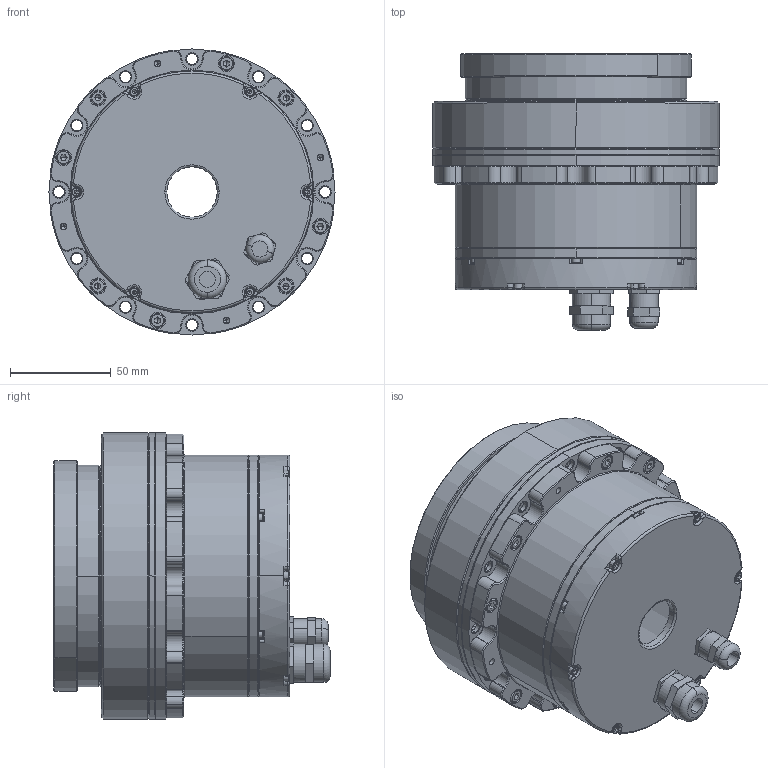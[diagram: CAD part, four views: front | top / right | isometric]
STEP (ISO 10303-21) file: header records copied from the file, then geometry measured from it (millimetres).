
FILE_DESCRIPTION (( 'STEP AP214' ), '1' );
FILE_NAME ('CMH-32-080-NB-BA-01-S2壽誹耀郪.STEP', '2023-05-11T01:37:51', ( '' ), ( '' ), 'SwSTEP 2.0', 'SolidWorks 2020', '' );
FILE_SCHEMA (( 'AUTOMOTIVE_DESIGN' ));
Length unit declared in the file: millimetre
Products named in the file (53): M16萇擢滅阨諉芛-hjs; M2.5X10-C_GB_FASTENER_SCREWS_HSHCS M2.5X10-C; CMH32-93-04-S1雄攫盓殤; 61808 GB 276-94_Rolling bearings 61808 GB 276-94; M4X25-鬥芛_GB_FASTENER_SCREWS_HSHCS M4X25-C; M4X25-C_GB_FASTENER_SCREWS_HSHCS M4X25-C; STWN50(縐銅); CMH32-11-04-S1奻褲极; M2.5X25-C_GB_FASTENER_SCREWS_HSHCS M2.5X10-C; M2X12-C_GB_FASTENER_SCREWS_HSHCS M2X12-C; CMH32-91-04-S1萇儂褲极; CMH32-13-04-S1狟褲极; CAPRO-S076034-噤砃; CMH32-22-03（定子骨架）; M12萇擢滅阨諉芛; CMH32-12-04熬厒儂圉傖こ; CMH32-31-03(蛌赽沺郋); 6810 VVCM_Rolling bearings 16010 GB 276-94; CMH32-32-03 CMH32-33-03(棠詩); DM110-10B30-QBX; CMH32-21-03(隅赽沺郋); MU35S 56-64N; CMH32-14-04-S1楷汜ん粣; CMH32-10-04-S1熬厒儂郪璃; DM110-10B30-PCB; CMH-32-080-NB-BA-01-S2壽誹耀郪; CMH32-96-04-S1萇儂綴傷裔; CMH32-92-04-S2晤鎢ん裔
Assembly tree (40 placements, depth 3):
  CMH32-93-04-S1雄攫盓殤
  61808 GB 276-94_Rolling bearings 61808 GB 276-94
  STWN50(縐銅)
  M2X12-C_GB_FASTENER_SCREWS_HSHCS M2X12-C
  CMH32-22-03（定子骨架）
Bounding box: 142 x 137 x 142 mm (x, y, z)
Volume: 315106.9 mm3; surface area: 210641.5 mm2
Topology: 44 solids, 53 shells, 3086 faces, 8057 edges, 5021 vertices
Faces by surface type: plane 1046, cylinder 1006, cone 574, bspline 289, torus 159, sphere 12
Entity records: 105990 total; most frequent: CARTESIAN_POINT 26635, ORIENTED_EDGE 15858, DIRECTION 14974, EDGE_CURVE 7941, AXIS2_PLACEMENT_3D 6188, VERTEX_POINT 5021, CIRCLE 3346, EDGE_LOOP 3341
